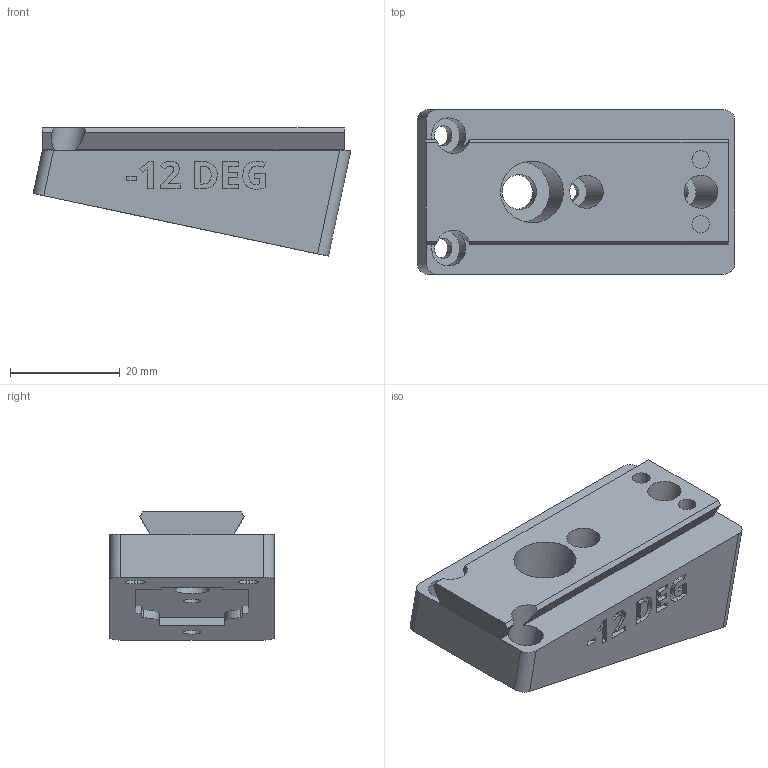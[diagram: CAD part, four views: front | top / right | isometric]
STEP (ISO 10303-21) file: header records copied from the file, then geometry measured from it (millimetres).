
FILE_DESCRIPTION(/* description */ ('STEP AP242 Edition 2','CAx-IF Rec.Pracs.---Representation and Presentation of Product Manufacturing Information (PMI)---4.0---2014-10-13','CAx-IF Rec.Pracs.---3D Tessellated Geometry---0.4---2014-09-14','2;1','CAx-IF Rec.Pracs.---User Defined Attributes---1.5---2016-08-15'),/* implementation_level */ '2;1');
FILE_NAME(/* name */ 'Camera Wedges - CAMERA MOUNTING WEDGE, NEG, -12 DEG',/* time_stamp */ '2026-08-11T00:06:17Z',/* author */ (''),/* organization */ (''),/* preprocessor_version */ 'ST-DEVELOPER v20',/* originating_system */ 'ONSHAPE BY PTC INC, 1.219',/* authorisation */ ' ');
FILE_SCHEMA (('AP242_MANAGED_MODEL_BASED_3D_ENGINEERING_MIM_LF { 1 0 10303 442 3 1 4 }'));
Length unit declared in the file: metre
Products named in the file (1): CAMERA MOUNTING WEDGE, NEG, -12 DEG
Bounding box: 57.89 x 30 x 23.37 mm (x, y, z)
Volume: 23062 mm3; surface area: 8184.2 mm2
Topology: 1 solids, 1 shells, 253 faces, 691 edges, 460 vertices
Faces by surface type: plane 155, cylinder 52, bspline 46
Full cylindrical faces by diameter (mm): 3.2 x4, 6 x2, 6.4 x1, 11.2 x1
Entity records: 8131 total; most frequent: CARTESIAN_POINT 1903, ORIENTED_EDGE 1366, DIRECTION 1123, EDGE_CURVE 683, LINE 475, VECTOR 475, VERTEX_POINT 460, AXIS2_PLACEMENT_3D 324
